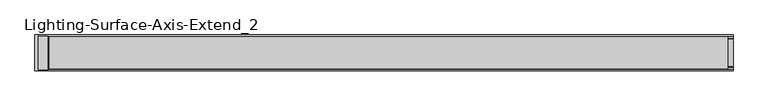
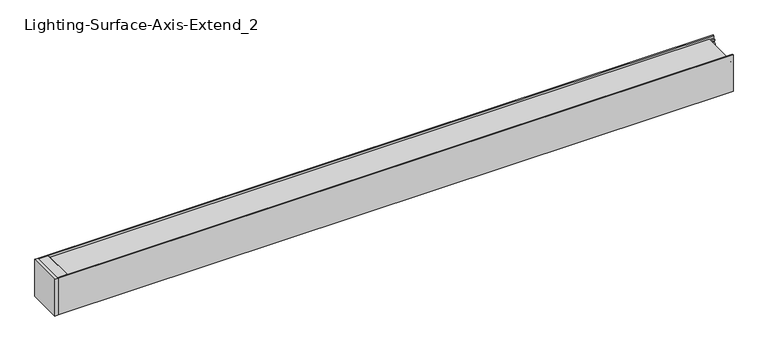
"""IFC4 building model written with IfcOpenShell, lengths in millimetres: light fixture geometry, Lighting-Surface-Axis-Extend_2 : EX2S-900-80-35-SO-4."""

from ifc_helpers import new_model, si_unit, point, frame, frame_2d, origin, origin_with_axes, place, context, project, spatial, polyline, circle_curve, trimmed, segment, composite_curve, outline, extrude, source, transform, mapped, element, save


def lighting_surface_axis_extend_2_856c419b(model_context):
    return source(origin(), model_context, "Body", "SweptSolid", [
        extrude(outline(polyline([(70.3357861, -606.2726), (71.4375, -607.1971437), (71.4375, -624.586), (66.8532981, -624.586), (66.8532981, -613.918), (69.6595, -613.918), (69.6595, -607.06635), (68.86575, -607.06635), (68.86575, -606.2726), (70.3357861, -606.2726)])), frame((0.0, -29.972, 0.0), z_axis=(0.0, 1.0, 0.0), x_axis=(0.0, 0.0, 1.0)), (0.0, 0.0, 1.0), 59.944),
        extrude(outline(polyline([(-624.586, 32.004), (-624.586, -32.004), (-630.936, -32.004), (-630.936, 32.004), (-624.586, 32.004)])), origin_with_axes(), (0.0, 0.0, 1.0), 71.4375),
        extrude(outline(composite_curve([segment(polyline([(-24.1727262, 66.5479991), (-24.5114181, 60.0853737)]), True, "CONTINUOUS"), segment(trimmed(circle_curve(frame_2d((-27.2542, 57.0865)), 4.064), [point((-24.5114181, 60.0853737))], [point((-25.3818814, 53.4794903))], False, "CARTESIAN"), True, "CONTINUOUS"), segment(trimmed(circle_curve(frame_2d((-22.149344, 54.2683457)), 3.3274001), [point((-25.3818814, 53.4794903))], [point((-24.5665956, 51.9817575))], True, "CARTESIAN"), True, "CONTINUOUS"), segment(trimmed(circle_curve(frame_2d((-17.1303177, 59.0160708)), 10.2362001), [point((-24.5665956, 51.9817575))], [point((-23.2119066, 50.7823555))], True, "CARTESIAN"), True, "CONTINUOUS"), segment(trimmed(circle_curve(frame_2d((-23.7023573, 50.1183462)), 0.8255), [point((-23.2119066, 50.7823555))], [point((-24.192808, 49.4543369))], False, "CARTESIAN"), True, "CONTINUOUS"), segment(trimmed(circle_curve(frame_2d((-17.1303169, 59.0160717)), 11.8872013), [point((-24.192808, 49.4543369))], [point((-25.7659952, 50.8471908))], False, "CARTESIAN"), True, "CONTINUOUS"), segment(trimmed(circle_curve(frame_2d((-22.149344, 54.2683457)), 4.9784001), [point((-25.7659952, 50.8471908))], [point((-27.1108807, 54.67776))], False, "CARTESIAN"), True, "CONTINUOUS"), segment(trimmed(circle_curve(frame_2d((-27.2542, 57.0865)), 2.413), [point((-27.1108807, 54.67776))], [point((-25.4753941, 58.7169658))], True, "CARTESIAN"), True, "CONTINUOUS"), segment(trimmed(circle_curve(frame_2d((-23.6029669, 60.4332456)), 2.54), [point((-25.4753941, 58.7169658))], [point((-26.1394859, 60.5661789))], False, "CARTESIAN"), True, "CONTINUOUS"), segment(polyline([(-26.1394859, 60.5661789), (-25.825992, 66.5479991), (-28.829, 66.5479991), (-28.829, 68.453), (28.829, 68.453), (28.829, 66.5479991), (25.825992, 66.5479991), (26.1394859, 60.5661789)]), True, "CONTINUOUS"), segment(trimmed(circle_curve(frame_2d((23.6029669, 60.4332456)), 2.54), [point((26.1394859, 60.5661789))], [point((25.4753941, 58.7169658))], False, "CARTESIAN"), True, "CONTINUOUS"), segment(trimmed(circle_curve(frame_2d((27.2542, 57.0865)), 2.413), [point((25.4753941, 58.7169658))], [point((27.1108807, 54.67776))], True, "CARTESIAN"), True, "CONTINUOUS"), segment(trimmed(circle_curve(frame_2d((22.149344, 54.2683457)), 4.9784001), [point((27.1108807, 54.67776))], [point((25.7659952, 50.8471908))], False, "CARTESIAN"), True, "CONTINUOUS"), segment(trimmed(circle_curve(frame_2d((17.1303169, 59.0160717)), 11.8872013), [point((25.7659952, 50.8471908))], [point((24.192808, 49.4543369))], False, "CARTESIAN"), True, "CONTINUOUS"), segment(trimmed(circle_curve(frame_2d((23.7023573, 50.1183462)), 0.8255), [point((24.192808, 49.4543369))], [point((23.2119066, 50.7823555))], False, "CARTESIAN"), True, "CONTINUOUS"), segment(trimmed(circle_curve(frame_2d((17.1303177, 59.0160708)), 10.2362001), [point((23.2119066, 50.7823555))], [point((24.5665956, 51.9817575))], True, "CARTESIAN"), True, "CONTINUOUS"), segment(trimmed(circle_curve(frame_2d((22.149344, 54.2683457)), 3.3274001), [point((24.5665956, 51.9817575))], [point((25.3818814, 53.4794903))], True, "CARTESIAN"), True, "CONTINUOUS"), segment(trimmed(circle_curve(frame_2d((27.2542, 57.0865)), 4.064), [point((25.3818814, 53.4794903))], [point((24.5114181, 60.0853737))], False, "CARTESIAN"), True, "CONTINUOUS"), segment(polyline([(24.5114181, 60.0853737), (24.1727262, 66.5479991), (-24.1727262, 66.5479991)]), True, "CONTINUOUS")], self_intersect=False)), frame((-609.6, 0.0, 0.0), z_axis=(1.0, 0.0, 0.0), x_axis=(0.0, 1.0, 0.0)), (0.0, 0.0, 1.0), 1219.2),
        extrude(outline(composite_curve([segment(polyline([(-29.972, 56.5277), (-29.972, 2.032), (29.972, 2.032), (29.972, 56.5277), (28.1325797, 56.5277)]), True, "CONTINUOUS"), segment(trimmed(circle_curve(frame_2d((26.6262297, 56.5277)), 1.5063501), [point((28.1325797, 56.5277))], [point((25.8730546, 55.2231626))], False, "CARTESIAN"), True, "CONTINUOUS"), segment(trimmed(circle_curve(frame_2d((27.0642121, 57.2863079)), 2.382315), [point((25.8730546, 55.2231626))], [point((24.6896516, 57.4783682))], False, "CARTESIAN"), True, "CONTINUOUS"), segment(polyline([(24.6896516, 57.4783682), (28.067, 60.3123), (28.067, 58.5597), (29.972, 58.5597), (29.972, 65.0875), (28.067, 65.0875), (28.067, 63.5635), (26.416, 63.6500252), (26.416, 66.3575), (29.972, 66.3575), (29.972, 71.4375), (32.004, 71.4375), (32.004, 0.0), (-32.004, 0.0), (-32.004, 71.4375), (-29.972, 71.4375), (-29.972, 66.3575), (-26.416, 66.3575), (-26.416, 63.6500252), (-28.067, 63.5635), (-28.067, 65.0875), (-29.972, 65.0875), (-29.972, 58.5597), (-28.067, 58.5597), (-28.067, 60.3123), (-24.6896516, 57.4783682)]), True, "CONTINUOUS"), segment(trimmed(circle_curve(frame_2d((-27.0642121, 57.2863079)), 2.382315), [point((-24.6896516, 57.4783682))], [point((-25.8730546, 55.2231626))], False, "CARTESIAN"), True, "CONTINUOUS"), segment(trimmed(circle_curve(frame_2d((-26.6262297, 56.5277)), 1.5063501), [point((-25.8730546, 55.2231626))], [point((-28.1325797, 56.5277))], False, "CARTESIAN"), True, "CONTINUOUS"), segment(polyline([(-28.1325797, 56.5277), (-29.972, 56.5277)]), True, "CONTINUOUS")], self_intersect=False)), frame((-624.586, 0.0, 0.0), z_axis=(1.0, 0.0, 0.0), x_axis=(0.0, 1.0, 0.0)), (0.0, 0.0, 1.0), 1243.3427),
    ])


if __name__ == "__main__":
    model = new_model("IFC4")
    model_context = context("Model", 3, world=origin())
    ifc_project = project(units=[si_unit("LENGTHUNIT", "METRE", prefix="MILLI")], contexts=[model_context])
    site = spatial("IfcSite", under=ifc_project)
    building = spatial("IfcBuilding", under=site)
    placement = place(None, origin())
    lighting_surface_axis_extend_2_shape = lighting_surface_axis_extend_2_856c419b(model_context)
    element("IfcLightFixture", 1, ObjectType="Lighting-Surface-Axis-Extend_2 : EX2S-900-80-35-SO-4", at=placement, inside=building, context=model_context, shape_type="MappedRepresentation", body=[
        mapped(lighting_surface_axis_extend_2_shape, transform((0.0, 0.0, 0.0), x_axis=(1.0, 0.0, 0.0), y_axis=(0.0, 1.0, 0.0), z_axis=(0.0, 0.0, 1.0))),
    ])
    save(model, "model.ifc")
